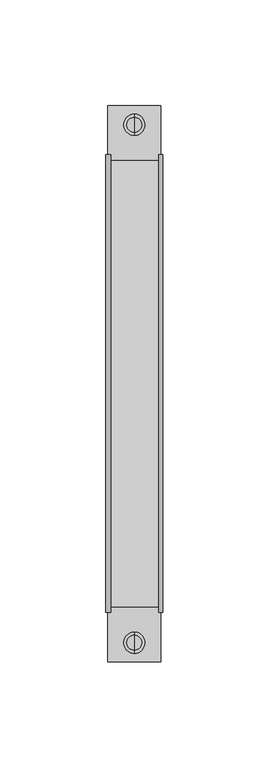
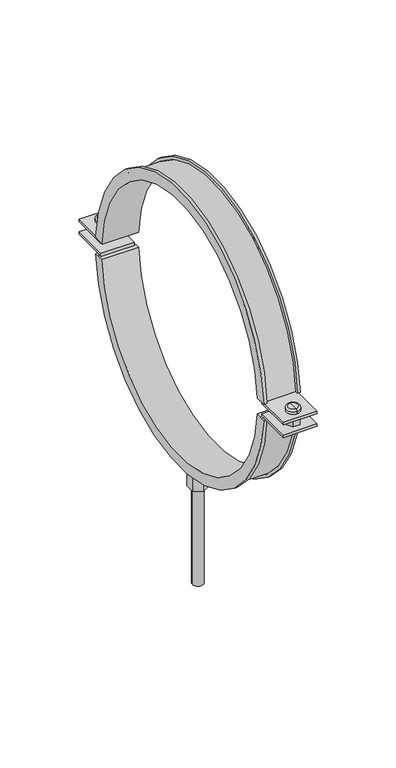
"""IFC4 building model written with IfcOpenShell, lengths in millimetres: pipe fitting geometry, NIRON abrazadera isofonica lisa : Estándard."""

from ifc_helpers import new_model, si_unit, point, frame, origin, origin_2d, place, context, project, spatial, polyline, circle_curve, ellipse_curve, trimmed, segment, composite_curve, outline, extrude, source, transform, mapped, element, save
from ifc_brep_helpers import plane_surface, cylinder_surface, revolved_surface, advanced_brep


def pipe_fitting_466e4a99(model_context):
    return source(origin(), model_context, "Body", "SolidModel", [
        advanced_brep(
        [(0.0, 118.5, -7.8), (0.0, 118.5, -4.8), (0.0, 126.5, -4.8), (0.0, 126.5, -7.8), (0.0, 122.5, -7.8), (0.0, 122.5, -4.8)],
        [
            (0, 1),
            (1, 2, circle_curve(frame((0.0, 122.5, -4.8), z_axis=(0.0, 0.0, -1.0), x_axis=(0.0, 1.0, 0.0)), 4.0)),
            (2, 3),
            (3, 0, circle_curve(frame((0.0, 122.5, -7.8), z_axis=(0.0, 0.0, 1.0), x_axis=(0.0, 1.0, 0.0)), 4.0)),
            (2, 1, circle_curve(frame((0.0, 122.5, -4.8), z_axis=(0.0, 0.0, -1.0), x_axis=(0.0, 1.0, 0.0)), 4.0)),
            (0, 3, circle_curve(frame((0.0, 122.5, -7.8), z_axis=(0.0, 0.0, 1.0), x_axis=(0.0, 1.0, 0.0)), 4.0)),
            (4, 0),
            (3, 4),
            (1, 5),
            (5, 2),
        ],
        [
            cylinder_surface(frame((0.0, 122.5, -110.5332781), z_axis=(0.0, 0.0, -1.0), x_axis=(0.0, 1.0, 0.0)), 4.0),
            plane_surface(frame((0.0, 122.5, -7.8), z_axis=(0.0, 0.0, -1.0), x_axis=(0.0, 1.0, 0.0))),
            plane_surface(frame((0.0, 122.5, -4.8), z_axis=(0.0, 0.0, 1.0), x_axis=(0.0, 1.0, 0.0))),
        ],
        [
            (0, [[1, 2, 3, 4]]),
            (0, [[-3, 5, -1, 6]]),
            (1, [[7, -4, 8]]),
            (1, [[-8, -6, -7]]),
            (2, [[9, 10, -2]]),
            (2, [[-10, -9, -5]]),
        ],
    ),
        advanced_brep(
        [(0.0, 122.5, 4.8), (0.0, 117.5, 4.8), (0.0, 127.5, 4.8), (0.0, 117.5, 7.3), (0.0, 127.5, 7.3), (0.0, 119.0, 8.8), (0.0, 122.5, 8.8), (0.0, 126.0, 8.8)],
        [
            (0, 1),
            (1, 2, circle_curve(frame((0.0, 122.5, 4.8), z_axis=(0.0, 0.0, -1.0), x_axis=(0.0, 1.0, 0.0)), 5.0)),
            (2, 0),
            (2, 1, circle_curve(frame((0.0, 122.5, 4.8), z_axis=(0.0, 0.0, -1.0), x_axis=(0.0, 1.0, 0.0)), 5.0)),
            (1, 3),
            (3, 4, circle_curve(frame((0.0, 122.5, 7.3), z_axis=(0.0, 0.0, -1.0), x_axis=(0.0, 1.0, 0.0)), 5.0)),
            (4, 2),
            (4, 3, circle_curve(frame((0.0, 122.5, 7.3), z_axis=(0.0, 0.0, -1.0), x_axis=(0.0, 1.0, 0.0)), 5.0)),
            (5, 6),
            (6, 7),
            (7, 5, circle_curve(frame((0.0, 122.5, 8.8), z_axis=(0.0, 0.0, 1.0), x_axis=(0.0, 1.0, 0.0)), 3.5)),
            (5, 7, circle_curve(frame((0.0, 122.5, 8.8), z_axis=(0.0, 0.0, 1.0), x_axis=(0.0, 1.0, 0.0)), 3.5)),
            (3, 5, circle_curve(frame((0.0, 119.0, 7.3), z_axis=(-1.0, 0.0, 0.0), x_axis=(0.0, 1.0, 0.0)), 1.5)),
            (7, 4, circle_curve(frame((0.0, 126.0, 7.3), z_axis=(-1.0, 0.0, 0.0), x_axis=(0.0, -1.0, 0.0)), 1.5)),
        ],
        [
            plane_surface(frame((0.0, 122.5, 4.8), z_axis=(0.0, 0.0, -1.0), x_axis=(0.0, 1.0, 0.0))),
            cylinder_surface(frame((0.0, 122.5, 9.8), z_axis=(0.0, 0.0, -1.0), x_axis=(0.0, 1.0, 0.0)), 5.0),
            plane_surface(frame((0.0, 122.5, 8.8), z_axis=(0.0, 0.0, 1.0), x_axis=(0.0, 1.0, 0.0))),
            revolved_surface(trimmed(ellipse_curve(frame((0.0, 126.0, 7.3), z_axis=(-1.0, 0.0, 0.0), x_axis=(0.0, -1.0, 0.0)), 1.5, 1.5), [point((0.0, 126.0, 8.8))], [point((0.0, 127.5, 7.3))], True, "CARTESIAN"), (0.0, 122.5, 9.8), (0.0, 0.0, -1.0)),
        ],
        [
            (0, [[1, 2, 3]]),
            (0, [[-3, 4, -1]]),
            (1, [[5, 6, 7, -2]]),
            (1, [[-7, 8, -5, -4]]),
            (2, [[9, 10, 11]]),
            (2, [[-10, -9, 12]]),
            (3, [[13, -11, 14, -6]]),
            (3, [[-14, -12, -13, -8]]),
        ],
    ),
        advanced_brep(
        [(0.0, -118.5, -7.4875), (0.0, -126.5, -7.4875), (0.0, -126.5, -4.4875), (0.0, -118.5, -4.4875), (0.0, -122.5, -7.4875), (0.0, -122.5, -4.4875)],
        [
            (0, 1, circle_curve(frame((0.0, -122.5, -7.4875), z_axis=(0.0, 0.0, 1.0), x_axis=(0.0, -1.0, 0.0)), 4.0)),
            (1, 2),
            (2, 3, circle_curve(frame((0.0, -122.5, -4.4875), z_axis=(0.0, 0.0, -1.0), x_axis=(0.0, -1.0, 0.0)), 4.0)),
            (3, 0),
            (1, 0, circle_curve(frame((0.0, -122.5, -7.4875), z_axis=(0.0, 0.0, 1.0), x_axis=(0.0, -1.0, 0.0)), 4.0)),
            (3, 2, circle_curve(frame((0.0, -122.5, -4.4875), z_axis=(0.0, 0.0, -1.0), x_axis=(0.0, -1.0, 0.0)), 4.0)),
            (4, 1),
            (0, 4),
            (2, 5),
            (5, 3),
        ],
        [
            cylinder_surface(frame((0.0, -122.5, -110.2207781), z_axis=(0.0, 0.0, -1.0), x_axis=(0.0, -1.0, 0.0)), 4.0),
            plane_surface(frame((0.0, -122.5, -7.4875), z_axis=(0.0, 0.0, -1.0), x_axis=(0.0, -1.0, 0.0))),
            plane_surface(frame((0.0, -122.5, -4.4875), z_axis=(0.0, 0.0, 1.0), x_axis=(0.0, -1.0, 0.0))),
        ],
        [
            (0, [[1, 2, 3, 4]]),
            (0, [[5, -4, 6, -2]]),
            (1, [[7, -1, 8]]),
            (1, [[-8, -5, -7]]),
            (2, [[-3, 9, 10]]),
            (2, [[-6, -10, -9]]),
        ],
    ),
        advanced_brep(
        [(0.0, -122.5, 5.1125), (0.0, -127.5, 5.1125), (0.0, -117.5, 5.1125), (0.0, -127.5, 7.6125), (0.0, -117.5, 7.6125), (0.0, -119.0, 9.1125), (0.0, -126.0, 9.1125), (0.0, -122.5, 9.1125)],
        [
            (0, 1),
            (1, 2, circle_curve(frame((0.0, -122.5, 5.1125), z_axis=(0.0, 0.0, -1.0), x_axis=(0.0, -1.0, 0.0)), 5.0)),
            (2, 0),
            (2, 1, circle_curve(frame((0.0, -122.5, 5.1125), z_axis=(0.0, 0.0, -1.0), x_axis=(0.0, -1.0, 0.0)), 5.0)),
            (1, 3),
            (3, 4, circle_curve(frame((0.0, -122.5, 7.6125), z_axis=(0.0, 0.0, -1.0), x_axis=(0.0, -1.0, 0.0)), 5.0)),
            (4, 2),
            (4, 3, circle_curve(frame((0.0, -122.5, 7.6125), z_axis=(0.0, 0.0, -1.0), x_axis=(0.0, -1.0, 0.0)), 5.0)),
            (5, 6, circle_curve(frame((0.0, -122.5, 9.1125), z_axis=(0.0, 0.0, 1.0), x_axis=(0.0, -1.0, 0.0)), 3.5)),
            (6, 7),
            (7, 5),
            (6, 5, circle_curve(frame((0.0, -122.5, 9.1125), z_axis=(0.0, 0.0, 1.0), x_axis=(0.0, -1.0, 0.0)), 3.5)),
            (3, 6, circle_curve(frame((0.0, -126.0, 7.6125), z_axis=(-1.0, 0.0, 0.0), x_axis=(0.0, 1.0, 0.0)), 1.5)),
            (5, 4, circle_curve(frame((0.0, -119.0, 7.6125), z_axis=(-1.0, 0.0, 0.0), x_axis=(0.0, -1.0, 0.0)), 1.5)),
        ],
        [
            plane_surface(frame((0.0, -122.5, 5.1125), z_axis=(0.0, 0.0, -1.0), x_axis=(0.0, -1.0, 0.0))),
            cylinder_surface(frame((0.0, -122.5, 10.1125), z_axis=(0.0, 0.0, -1.0), x_axis=(0.0, -1.0, 0.0)), 5.0),
            plane_surface(frame((0.0, -122.5, 9.1125), z_axis=(0.0, 0.0, 1.0), x_axis=(0.0, -1.0, 0.0))),
            revolved_surface(trimmed(ellipse_curve(frame((0.0, -126.0, 7.6125), z_axis=(1.0, 0.0, 0.0), x_axis=(0.0, 1.0, 0.0)), 1.5, 1.5), [point((0.0, -126.0, 9.1125))], [point((0.0, -127.5, 7.6125))], True, "CARTESIAN"), (0.0, -122.5, 10.1125), (0.0, 0.0, -1.0)),
        ],
        [
            (0, [[1, 2, 3]]),
            (0, [[-3, 4, -1]]),
            (1, [[-2, 5, 6, 7]]),
            (1, [[-4, -7, 8, -5]]),
            (2, [[9, 10, 11]]),
            (2, [[12, -11, -10]]),
            (3, [[-6, 13, -9, 14]]),
            (3, [[-8, -14, -12, -13]]),
        ],
    ),
        extrude(outline(polyline([(2.5, 118.169873), (-2.5, 118.169873), (-5.0, 122.5), (-2.5, 126.830127), (2.5, 126.830127), (5.0, 122.5), (2.5, 118.169873)])), frame((0.0, 0.0, -4.0), z_axis=(0.0, 0.0, 1.0), x_axis=(1.0, 0.0, 0.0)), (0.0, 0.0, 1.0), 8.0),
        extrude(outline(polyline([(2.5, -118.169873), (5.0, -122.5), (2.5, -126.830127), (-2.5, -126.830127), (-5.0, -122.5), (-2.5, -118.169873), (2.5, -118.169873)])), frame((0.0, 0.0, -4.0), z_axis=(0.0, 0.0, 1.0), x_axis=(1.0, 0.0, 0.0)), (0.0, 0.0, 1.0), 8.0),
        advanced_brep(
        [(13.5, -99.8226497, 6.0), (13.5, -108.2576636, 6.5030314), (11.5, -108.2576636, 6.5030314), (11.5, -106.2612106, 6.3839707), (12.5, -106.2612106, 6.3839707), (12.5, -104.2647576, 6.26491), (-12.5, -104.2647576, 6.26491), (-12.5, -106.2612106, 6.3839707), (-11.0466338, -106.2612106, 6.3839707), (-11.0466338, -108.2576636, 6.5030314), (-13.5, -108.2576636, 6.5030314), (-13.5, -99.8226497, 6.0), (13.5, 99.8226497, 6.0), (-13.5, 99.8226497, 6.0), (-13.5, 108.2576636, 6.5030314), (-11.0466338, 108.2576636, 6.5030314), (-11.0466338, 106.2612106, 6.3839707), (-12.5, 106.2612106, 6.3839707), (-12.5, 104.2647576, 6.26491), (12.5, 104.2647576, 6.26491), (12.5, 106.2612106, 6.3839707), (11.5, 106.2612106, 6.3839707), (11.5, 108.2576636, 6.5030314), (13.5, 108.2576636, 6.5030314)],
        [
            (0, 1),
            (1, 2),
            (2, 3),
            (3, 4),
            (4, 5),
            (5, 6),
            (6, 7),
            (7, 8),
            (8, 9),
            (9, 10),
            (10, 11),
            (11, 0),
            (12, 13),
            (13, 14),
            (14, 15),
            (15, 16),
            (16, 17),
            (17, 18),
            (18, 19),
            (19, 20),
            (20, 21),
            (21, 22),
            (22, 23),
            (23, 12),
            (12, 0, circle_curve(frame((13.5, 0.0, 0.0469661), z_axis=(1.0, 0.0, 0.0), x_axis=(0.0, -0.9982264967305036, 0.05953033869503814)), 100.0)),
            (11, 13, circle_curve(frame((-13.5, 0.0, 0.0469661), z_axis=(-1.0, 0.0, 0.0), x_axis=(0.0, -0.9982264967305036, 0.05953033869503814)), 100.0)),
            (10, 14, circle_curve(frame((-13.5, 0.0, 0.0469661), z_axis=(-1.0, 0.0, 0.0), x_axis=(0.0, -0.9982264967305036, 0.05953033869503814)), 108.45)),
            (9, 15, circle_curve(frame((-11.0466338, 0.0, 0.0469661), z_axis=(-1.0, 0.0, 0.0), x_axis=(0.0, -0.9982264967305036, 0.05953033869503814)), 108.45)),
            (8, 16, circle_curve(frame((-11.0466338, 0.0, 0.0469661), z_axis=(-1.0, 0.0, 0.0), x_axis=(0.0, -0.9982264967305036, 0.05953033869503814)), 106.45)),
            (7, 17, circle_curve(frame((-12.5, 0.0, 0.0469661), z_axis=(-1.0, 0.0, 0.0), x_axis=(0.0, -0.9982264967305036, 0.05953033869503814)), 106.45)),
            (6, 18, circle_curve(frame((-12.5, 0.0, 0.0469661), z_axis=(-1.0, 0.0, 0.0), x_axis=(0.0, -0.9982264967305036, 0.05953033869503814)), 104.45)),
            (5, 19, circle_curve(frame((12.5, 0.0, 0.0469661), z_axis=(-1.0, 0.0, 0.0), x_axis=(0.0, -0.9982264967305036, 0.05953033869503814)), 104.45)),
            (4, 20, circle_curve(frame((12.5, 0.0, 0.0469661), z_axis=(-1.0, 0.0, 0.0), x_axis=(0.0, -0.9982264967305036, 0.05953033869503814)), 106.45)),
            (3, 21, circle_curve(frame((11.5, 0.0, 0.0469661), z_axis=(-1.0, 0.0, 0.0), x_axis=(0.0, -0.9982264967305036, 0.05953033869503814)), 106.45)),
            (2, 22, circle_curve(frame((11.5, 0.0, 0.0469661), z_axis=(-1.0, 0.0, 0.0), x_axis=(0.0, -0.9982264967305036, 0.05953033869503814)), 108.45)),
            (1, 23, circle_curve(frame((13.5, 0.0, 0.0469661), z_axis=(-1.0, 0.0, 0.0), x_axis=(0.0, -0.9982264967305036, 0.05953033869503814)), 108.45)),
        ],
        [
            plane_surface(frame((0.0, -99.8226497, 6.0), z_axis=(0.0, -0.05953033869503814, -0.9982264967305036), x_axis=(1.0, 0.0, 0.0))),
            plane_surface(frame((0.0, 99.8226497, 6.0), z_axis=(0.0, 0.05953033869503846, -0.9982264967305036), x_axis=(1.0, 0.0, 0.0))),
            revolved_surface(polyline([(-13.5, -99.82264967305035, 5.999999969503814), (13.5, -99.82264967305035, 5.999999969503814)]), (0.0, 0.0, 0.0469661), (-1.0, 0.0, 0.0)),
            plane_surface(frame((-13.5, 0.0, 0.0469661), z_axis=(-1.0, 0.0, 0.0), x_axis=(0.0, -0.9982264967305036, 0.05953033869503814))),
            cylinder_surface(frame((0.0, 0.0, 0.0469661), z_axis=(-1.0, 0.0, 0.0), x_axis=(0.0, -0.9982264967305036, 0.05953033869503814)), 108.45),
            plane_surface(frame((-11.0466338, 0.0, 0.0469661), z_axis=(1.0, 0.0, 0.0), x_axis=(0.0, -0.9982264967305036, 0.05953033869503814))),
            revolved_surface(polyline([(-12.5, -106.26121057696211, 6.38397065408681), (-11.0466338, -106.26121057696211, 6.38397065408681)]), (0.0, 0.0, 0.0469661), (-1.0, 0.0, 0.0)),
            plane_surface(frame((-12.5, 0.0, 0.0469661), z_axis=(1.0, 0.0, 0.0), x_axis=(0.0, -0.9982264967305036, 0.05953033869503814))),
            cylinder_surface(frame((0.0, 0.0, 0.0469661), z_axis=(-1.0, 0.0, 0.0), x_axis=(0.0, -0.9982264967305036, 0.05953033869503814)), 104.45),
            plane_surface(frame((12.5, 0.0, 0.0469661), z_axis=(-1.0, 0.0, 0.0), x_axis=(0.0, -0.9982264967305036, 0.05953033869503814))),
            revolved_surface(polyline([(11.5, -106.26121057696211, 6.38397065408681), (12.5, -106.26121057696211, 6.38397065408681)]), (0.0, 0.0, 0.0469661), (-1.0, 0.0, 0.0)),
            plane_surface(frame((11.5, 0.0, 0.0469661), z_axis=(-1.0, 0.0, 0.0), x_axis=(0.0, -0.9982264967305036, 0.05953033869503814))),
            plane_surface(frame((13.5, 0.0, 0.0469661), z_axis=(1.0, 0.0, 0.0), x_axis=(0.0, -0.9982264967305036, 0.05953033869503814))),
        ],
        [
            (0, [[1, 2, 3, 4, 5, 6, 7, 8, 9, 10, 11, 12]]),
            (1, [[13, 14, 15, 16, 17, 18, 19, 20, 21, 22, 23, 24]]),
            (2, [[25, -12, 26, -13]]),
            (3, [[-26, -11, 27, -14]]),
            (4, [[-27, -10, 28, -15]]),
            (5, [[-28, -9, 29, -16]]),
            (6, [[-29, -8, 30, -17]]),
            (7, [[-30, -7, 31, -18]]),
            (8, [[-31, -6, 32, -19]]),
            (9, [[-32, -5, 33, -20]]),
            (10, [[-33, -4, 34, -21]]),
            (11, [[-34, -3, 35, -22]]),
            (4, [[-35, -2, 36, -23]]),
            (12, [[-36, -1, -25, -24]]),
        ],
    ),
        extrude(outline(composite_curve([segment(trimmed(circle_curve(origin_2d(), 104.0), [point((-103.9230485, -4.0))], [point((103.9230485, -4.0))], True, "CARTESIAN"), True, "CONTINUOUS"), segment(polyline([(103.9230485, -4.0), (131.5, -4.0), (131.5, -6.0), (105.8300524, -6.0)]), True, "CONTINUOUS"), segment(trimmed(circle_curve(origin_2d(), 106.0), [point((105.8300524, -6.0))], [point((-105.8300524, -6.0))], False, "CARTESIAN"), True, "CONTINUOUS"), segment(polyline([(-105.8300524, -6.0), (-131.5, -6.0), (-131.5, -4.0), (-103.9230485, -4.0)]), True, "CONTINUOUS")], self_intersect=False)), frame((-12.5, 0.0, 0.0), z_axis=(1.0, 0.0, 0.0), x_axis=(0.0, 1.0, 0.0)), (0.0, 0.0, 1.0), 25.0),
        advanced_brep(
        [(13.5, -99.8198377, -6.0), (-13.5, -99.8198377, -6.0), (-13.5, -108.254614, -6.507), (-11.0466338, -108.254614, -6.507), (-11.0466338, -106.2582172, -6.387), (-12.5, -106.2582172, -6.387), (-12.5, -104.2618205, -6.267), (12.5, -104.2618205, -6.267), (12.5, -106.2582172, -6.387), (11.5, -106.2582172, -6.387), (11.5, -108.254614, -6.507), (13.5, -108.254614, -6.507), (13.5, 99.8198377, -6.0), (13.5, 108.254614, -6.507), (11.5, 108.254614, -6.507), (11.5, 106.2582172, -6.387), (12.5, 106.2582172, -6.387), (12.5, 104.2618205, -6.267), (-12.5, 104.2618205, -6.267), (-12.5, 106.2582172, -6.387), (-11.0466338, 106.2582172, -6.387), (-11.0466338, 108.254614, -6.507), (-13.5, 108.254614, -6.507), (-13.5, 99.8198377, -6.0)],
        [
            (0, 1),
            (1, 2),
            (2, 3),
            (3, 4),
            (4, 5),
            (5, 6),
            (6, 7),
            (7, 8),
            (8, 9),
            (9, 10),
            (10, 11),
            (11, 0),
            (12, 13),
            (13, 14),
            (14, 15),
            (15, 16),
            (16, 17),
            (17, 18),
            (18, 19),
            (19, 20),
            (20, 21),
            (21, 22),
            (22, 23),
            (23, 12),
            (23, 1, circle_curve(frame((-13.5, 0.0, 0.0), z_axis=(-1.0, 0.0, 0.0), x_axis=(0.0, -0.9981983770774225, -0.059999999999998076)), 100.0)),
            (0, 12, circle_curve(frame((13.5, 0.0, 0.0), z_axis=(1.0, 0.0, 0.0), x_axis=(0.0, -0.9981983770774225, -0.059999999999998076)), 100.0)),
            (22, 2, circle_curve(frame((-13.5, 0.0, 0.0), z_axis=(-1.0, 0.0, 0.0), x_axis=(0.0, -0.9981983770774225, -0.059999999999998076)), 108.45)),
            (21, 3, circle_curve(frame((-11.0466338, 0.0, 0.0), z_axis=(-1.0, 0.0, 0.0), x_axis=(0.0, -0.9981983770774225, -0.059999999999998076)), 108.45)),
            (20, 4, circle_curve(frame((-11.0466338, 0.0, 0.0), z_axis=(-1.0, 0.0, 0.0), x_axis=(0.0, -0.9981983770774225, -0.059999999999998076)), 106.45)),
            (19, 5, circle_curve(frame((-12.5, 0.0, 0.0), z_axis=(-1.0, 0.0, 0.0), x_axis=(0.0, -0.9981983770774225, -0.059999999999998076)), 106.45)),
            (18, 6, circle_curve(frame((-12.5, 0.0, 0.0), z_axis=(-1.0, 0.0, 0.0), x_axis=(0.0, -0.9981983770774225, -0.059999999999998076)), 104.45)),
            (17, 7, circle_curve(frame((12.5, 0.0, 0.0), z_axis=(-1.0, 0.0, 0.0), x_axis=(0.0, -0.9981983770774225, -0.059999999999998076)), 104.45)),
            (16, 8, circle_curve(frame((12.5, 0.0, 0.0), z_axis=(-1.0, 0.0, 0.0), x_axis=(0.0, -0.9981983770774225, -0.059999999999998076)), 106.45)),
            (15, 9, circle_curve(frame((11.5, 0.0, 0.0), z_axis=(-1.0, 0.0, 0.0), x_axis=(0.0, -0.9981983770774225, -0.059999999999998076)), 106.45)),
            (14, 10, circle_curve(frame((11.5, 0.0, 0.0), z_axis=(-1.0, 0.0, 0.0), x_axis=(0.0, -0.9981983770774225, -0.059999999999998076)), 108.45)),
            (13, 11, circle_curve(frame((13.5, 0.0, 0.0), z_axis=(-1.0, 0.0, 0.0), x_axis=(0.0, -0.9981983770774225, -0.059999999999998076)), 108.45)),
        ],
        [
            plane_surface(frame((0.0, -99.8198377, -6.0), z_axis=(0.0, -0.059999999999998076, 0.9981983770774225), x_axis=(1.0, 0.0, 0.0))),
            plane_surface(frame((0.0, 99.8198377, -6.0), z_axis=(0.0, 0.05999999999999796, 0.9981983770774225), x_axis=(1.0, 0.0, 0.0))),
            revolved_surface(polyline([(13.5, -99.81983770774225, -5.999999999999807), (-13.5, -99.81983770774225, -5.999999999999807)]), (0.0, 0.0, 0.0), (1.0, 0.0, 0.0)),
            plane_surface(frame((-13.5, 0.0, 0.0), z_axis=(-1.0, 0.0, 0.0), x_axis=(0.0, -0.9981983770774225, -0.059999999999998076))),
            cylinder_surface(frame((0.0, 0.0, 0.0), z_axis=(1.0, 0.0, 0.0), x_axis=(0.0, -0.9981983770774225, -0.059999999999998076)), 108.45),
            plane_surface(frame((-11.0466338, 0.0, 0.0), z_axis=(1.0, 0.0, 0.0), x_axis=(0.0, -0.9981983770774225, -0.059999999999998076))),
            revolved_surface(polyline([(-11.0466338, -106.25821723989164, -6.386999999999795), (-12.5, -106.25821723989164, -6.386999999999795)]), (0.0, 0.0, 0.0), (1.0, 0.0, 0.0)),
            plane_surface(frame((-12.5, 0.0, 0.0), z_axis=(1.0, 0.0, 0.0), x_axis=(0.0, -0.9981983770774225, -0.059999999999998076))),
            cylinder_surface(frame((0.0, 0.0, 0.0), z_axis=(1.0, 0.0, 0.0), x_axis=(0.0, -0.9981983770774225, -0.059999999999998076)), 104.45),
            plane_surface(frame((12.5, 0.0, 0.0), z_axis=(-1.0, 0.0, 0.0), x_axis=(0.0, -0.9981983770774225, -0.059999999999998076))),
            revolved_surface(polyline([(12.5, -106.25821723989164, -6.386999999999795), (11.5, -106.25821723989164, -6.386999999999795)]), (0.0, 0.0, 0.0), (1.0, 0.0, 0.0)),
            plane_surface(frame((11.5, 0.0, 0.0), z_axis=(-1.0, 0.0, 0.0), x_axis=(0.0, -0.9981983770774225, -0.059999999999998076))),
            plane_surface(frame((13.5, 0.0, 0.0), z_axis=(1.0, 0.0, 0.0), x_axis=(0.0, -0.9981983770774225, -0.059999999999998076))),
        ],
        [
            (0, [[1, 2, 3, 4, 5, 6, 7, 8, 9, 10, 11, 12]]),
            (1, [[13, 14, 15, 16, 17, 18, 19, 20, 21, 22, 23, 24]]),
            (2, [[25, -1, 26, -24]]),
            (3, [[27, -2, -25, -23]]),
            (4, [[28, -3, -27, -22]]),
            (5, [[29, -4, -28, -21]]),
            (6, [[30, -5, -29, -20]]),
            (7, [[31, -6, -30, -19]]),
            (8, [[32, -7, -31, -18]]),
            (9, [[33, -8, -32, -17]]),
            (10, [[34, -9, -33, -16]]),
            (11, [[35, -10, -34, -15]]),
            (4, [[36, -11, -35, -14]]),
            (12, [[-26, -12, -36, -13]]),
        ],
    ),
        extrude(outline(composite_curve([segment(trimmed(circle_curve(origin_2d(), 106.0), [point((-105.8300524, 6.0))], [point((105.8300524, 6.0))], False, "CARTESIAN"), True, "CONTINUOUS"), segment(polyline([(105.8300524, 6.0), (131.5, 6.0), (131.5, 4.0), (103.9230485, 4.0)]), True, "CONTINUOUS"), segment(trimmed(circle_curve(origin_2d(), 104.0), [point((103.9230485, 4.0))], [point((-103.9230485, 4.0))], True, "CARTESIAN"), True, "CONTINUOUS"), segment(polyline([(-103.9230485, 4.0), (-131.5, 4.0), (-131.5, 6.0), (-105.8300524, 6.0)]), True, "CONTINUOUS")], self_intersect=False)), frame((-12.5, 0.0, 0.0), z_axis=(1.0, 0.0, 0.0), x_axis=(0.0, 1.0, 0.0)), (0.0, 0.0, 1.0), 25.0),
        extrude(outline(composite_curve([segment(trimmed(circle_curve(origin_2d(), 4.0), [point((-4.0, 0.0))], [point((4.0, 0.0))], False, "CARTESIAN"), True, "CONTINUOUS"), segment(trimmed(circle_curve(origin_2d(), 4.0), [point((4.0, 0.0))], [point((-4.0, 0.0))], False, "CARTESIAN"), True, "CONTINUOUS")], self_intersect=False)), frame((0.0, 0.0, -204.0), z_axis=(0.0, 0.0, 1.0), x_axis=(1.0, 0.0, 0.0)), (0.0, 0.0, 1.0), 100.0),
        extrude(outline(polyline([(-6.0621778, 3.5), (0.0, 7.0), (6.0621778, 3.5), (6.0621778, -3.5), (0.0, -7.0), (-6.0621778, -3.5), (-6.0621778, 3.5)])), frame((0.0, 0.0, -128.0), z_axis=(0.0, 0.0, 1.0), x_axis=(1.0, 0.0, 0.0)), (0.0, 0.0, 1.0), 24.0),
    ])


if __name__ == "__main__":
    model = new_model("IFC4")
    model_context = context("Model", 3, world=origin())
    ifc_project = project(units=[si_unit("LENGTHUNIT", "METRE", prefix="MILLI")], contexts=[model_context])
    site = spatial("IfcSite", under=ifc_project)
    building = spatial("IfcBuilding", under=site)
    placement = place(None, origin())
    pipe_fitting_shape = pipe_fitting_466e4a99(model_context)
    element("IfcPipeFitting", 1, ObjectType="NIRON abrazadera isofonica lisa : Estándard", at=placement, inside=building, context=model_context, shape_type="MappedRepresentation", body=[
        mapped(pipe_fitting_shape, transform((0.0, 0.0, 0.0), x_axis=(1.0, 0.0, 0.0), y_axis=(0.0, 1.0, 0.0), z_axis=(0.0, 0.0, 1.0))),
    ])
    save(model, "model.ifc")
